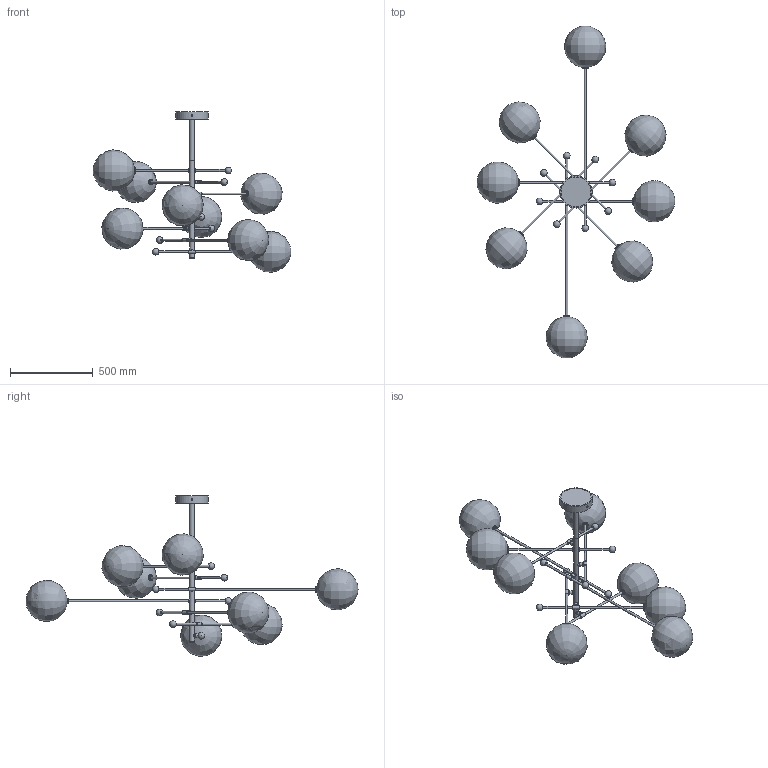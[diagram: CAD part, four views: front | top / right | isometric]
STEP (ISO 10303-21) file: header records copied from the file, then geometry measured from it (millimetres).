
FILE_DESCRIPTION(/* description */ (''),/* implementation_level */ '2;1');
FILE_NAME(/* name */ 'T:\B080 RD 15 8 ARM\Pliki bryłowe handlowe\B080 RD 15 8 Arms 3D files\B080 RD 15 8 Arms.stp',/* time_stamp */ '2022-01-20T08:27:28+01:00',/* author */ ('Mariusz Awariusz'),/* organization */ (''),/* preprocessor_version */ 'ST-DEVELOPER v18.1',/* originating_system */ 'Autodesk Inventor 2022',/* authorisation */ '');
FILE_SCHEMA (('AUTOMOTIVE_DESIGN { 1 0 10303 214 3 1 1 }'));
Length unit declared in the file: millimetre
Products named in the file (1): B080 RD 15 8 ARM CE_v3_na potrzeby plików 3D_2_jako część
Bounding box: 1192.7 x 2002.7 x 969.41 mm (x, y, z)
Volume: 6194895.4 mm3; surface area: 3577716 mm2
Topology: 1 solids, 17 shells, 506 faces, 1061 edges, 679 vertices
Faces by surface type: plane 208, cylinder 160, cone 90, bspline 24, torus 16, sphere 8
Full cylindrical faces by diameter (mm): 3 x20, 10 x8, 11.6 x16, 11.917 x15, 13 x33, 20 x8, 22 x16, 25.221 x8, 30 x3, 33 x8, 35 x8, 195 x1
Entity records: 15589 total; most frequent: CARTESIAN_POINT 4500, DIRECTION 2505, ORIENTED_EDGE 2058, AXIS2_PLACEMENT_3D 1075, EDGE_CURVE 1029, VERTEX_POINT 679, EDGE_LOOP 655, CIRCLE 592
